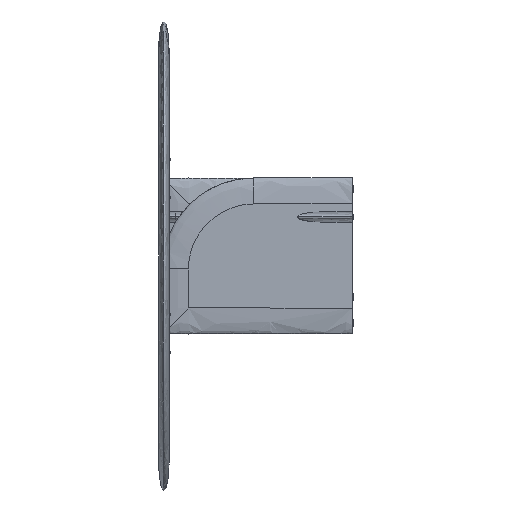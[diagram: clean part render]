
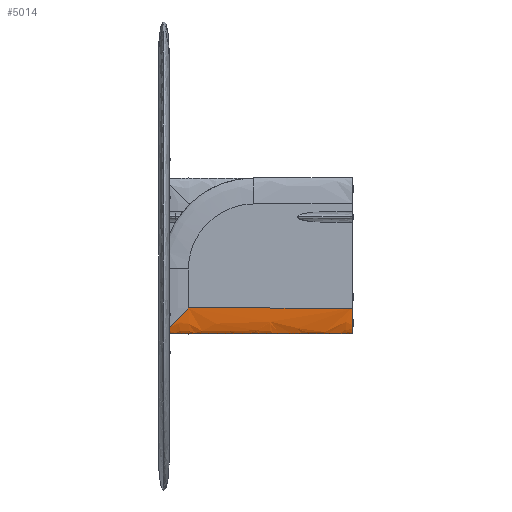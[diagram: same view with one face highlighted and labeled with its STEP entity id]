
A CAD part, left-side view. The second image highlights one B-rep face of the part: STEP entity #5014.
In plain terms, the highlighted free-form (B-spline) face has degree [3, 1] with [4, 2] control points.
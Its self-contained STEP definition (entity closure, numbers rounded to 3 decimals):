
#183 = CARTESIAN_POINT ( 'NONE',  ( 235., 730.6, -350. ) ) ;
#446 = EDGE_CURVE ( 'NONE', #15020, #12614, #1156, .T. ) ;
#465 = EDGE_CURVE ( 'NONE', #15020, #20140, #3178, .T. ) ;
#1156 =( BOUNDED_CURVE ( )  B_SPLINE_CURVE ( 3, ( #19485, #11977, #18241, #16699 ),
 .UNSPECIFIED., .F., .F. ) 
 B_SPLINE_CURVE_WITH_KNOTS ( ( 4, 4 ),
 ( 2.419, 3.864 ),
 .UNSPECIFIED. ) 
 CURVE ( )  GEOMETRIC_REPRESENTATION_ITEM ( )  RATIONAL_B_SPLINE_CURVE ( ( 1., 0.833, 0.833, 1. ) ) 
 REPRESENTATION_ITEM ( '' )  );
#1372 = CARTESIAN_POINT ( 'NONE',  ( 197.677, 680.101, -400.101 ) ) ;
#1470 = CARTESIAN_POINT ( 'NONE',  ( 195.237, 645.671, -365.671 ) ) ;
#1569 = CARTESIAN_POINT ( 'NONE',  ( 201.07, 701.907, -421.907 ) ) ;
#1695 =( BOUNDED_CURVE ( )  B_SPLINE_CURVE ( 3, ( #4519, #19866, #10798, #2968 ),
 .UNSPECIFIED., .F., .F. ) 
 B_SPLINE_CURVE_WITH_KNOTS ( ( 4, 4 ),
 ( 1.571, 4.712 ),
 .UNSPECIFIED. ) 
 CURVE ( )  GEOMETRIC_REPRESENTATION_ITEM ( )  RATIONAL_B_SPLINE_CURVE ( ( 1., 0.333, 0.333, 1. ) ) 
 REPRESENTATION_ITEM ( '' )  );
#2203 = CARTESIAN_POINT ( 'NONE',  ( 228.229, 705., -425. ) ) ;
#2407 = CARTESIAN_POINT ( 'NONE',  ( 235., 636.269, -356.269 ) ) ;
#2522 = EDGE_CURVE ( 'NONE', #20140, #18769, #14318, .T. ) ;
#2707 = CARTESIAN_POINT ( 'NONE',  ( 195.959, 661.335, -381.335 ) ) ;
#2743 = ORIENTED_EDGE ( 'NONE', *, *, #12117, .F. ) ;
#2907 = CARTESIAN_POINT ( 'NONE',  ( 200.463, 698.802, -418.802 ) ) ;
#2968 = CARTESIAN_POINT ( 'NONE',  ( 235., 0., -350. ) ) ;
#3152 = CARTESIAN_POINT ( 'NONE',  ( 201.771, 705., -425. ) ) ;
#3162 = CARTESIAN_POINT ( 'NONE',  ( 235., 0., -350. ) ) ;
#3178 = B_SPLINE_CURVE_WITH_KNOTS ( 'NONE', 3,
 ( #20010, #1569, #2907, #9182, #13926, #13823, #1372, #16800, #20117, #2707, #4659, #1470, #15467, #18442, #6099, #4456, #10535, #18650, #17000, #7852, #20321 ),
 .UNSPECIFIED., .F., .F.,
 ( 4, 2, 2, 2, 2, 2, 2, 2, 1, 2, 4 ),
 ( 0.039, 0.053, 0.066, 0.079, 0.093, 0.119, 0.133, 0.139, 0.143, 0.144, 0.146 ),
 .UNSPECIFIED. ) ;
#3290 = CARTESIAN_POINT ( 'NONE',  ( 195., 0., -350. ) ) ;
#3402 = DIRECTION ( 'NONE',  ( 0., -1., 0. ) ) ;
#3739 = CARTESIAN_POINT ( 'NONE',  ( 235., 0., -350. ) ) ;
#4056 = CARTESIAN_POINT ( 'NONE',  ( 231.949, 683.225, -403.225 ) ) ;
#4456 = CARTESIAN_POINT ( 'NONE',  ( 195.015, 633.919, -353.919 ) ) ;
#4519 = CARTESIAN_POINT ( 'NONE',  ( 195., 0., -350. ) ) ;
#4528 = ORIENTED_EDGE ( 'NONE', *, *, #2522, .F. ) ;
#4659 = CARTESIAN_POINT ( 'NONE',  ( 195.597, 655.071, -375.071 ) ) ;
#4751 = VECTOR ( 'NONE', #17468, 1000. ) ;
#4906 = CARTESIAN_POINT ( 'NONE',  ( 195., 705., -350. ) ) ;
#5014 = ADVANCED_FACE ( 'NONE', ( #17464 ), #6013, .T. ) ;
#5581 = CARTESIAN_POINT ( 'NONE',  ( 235., 630., -350. ) ) ;
#6013 =( BOUNDED_SURFACE ( )  B_SPLINE_SURFACE ( 3, 1, ( 
 ( #4906, #13023 ),
 ( #16011, #14468 ),
 ( #19009, #19299 ),
 ( #8286, #3162 ) ),
 .UNSPECIFIED., .F., .F., .T. ) 
 B_SPLINE_SURFACE_WITH_KNOTS ( ( 4, 4 ),
 ( 2, 2 ),
 ( 0., 1. ),
 ( 0., 1. ),
 .UNSPECIFIED. ) 
 GEOMETRIC_REPRESENTATION_ITEM ( )  RATIONAL_B_SPLINE_SURFACE ( (
 ( 1., 1.),
 ( 0.333, 0.333),
 ( 0.333, 0.333),
 ( 1., 1.) ) ) 
 REPRESENTATION_ITEM ( '' )  SURFACE ( )  );
#6099 = CARTESIAN_POINT ( 'NONE',  ( 195.037, 636.269, -356.269 ) ) ;
#6953 = ORIENTED_EDGE ( 'NONE', *, *, #465, .F. ) ;
#7032 = CARTESIAN_POINT ( 'NONE',  ( 232.323, 680.101, -400.101 ) ) ;
#7113 = EDGE_CURVE ( 'NONE', #12419, #7453, #17369, .T. ) ;
#7139 = CARTESIAN_POINT ( 'NONE',  ( 233.279, 670.722, -390.722 ) ) ;
#7417 = EDGE_LOOP ( 'NONE', ( #6953, #11293, #2743, #11979, #11346, #4528 ) ) ;
#7453 = VERTEX_POINT ( 'NONE', #3739 ) ;
#7852 = CARTESIAN_POINT ( 'NONE',  ( 195., 630.394, -350.394 ) ) ;
#8286 = CARTESIAN_POINT ( 'NONE',  ( 235., 705., -350. ) ) ;
#8669 = CARTESIAN_POINT ( 'NONE',  ( 234.041, 661.335, -381.335 ) ) ;
#9182 = CARTESIAN_POINT ( 'NONE',  ( 199.378, 692.58, -412.58 ) ) ;
#9236 = CARTESIAN_POINT ( 'NONE',  ( 195., 630., -350. ) ) ;
#9830 = CARTESIAN_POINT ( 'NONE',  ( 228.229, 705., -425. ) ) ;
#10329 = CARTESIAN_POINT ( 'NONE',  ( 228.93, 701.907, -421.907 ) ) ;
#10535 = CARTESIAN_POINT ( 'NONE',  ( 195.006, 632.743, -352.743 ) ) ;
#10798 = CARTESIAN_POINT ( 'NONE',  ( 235., 0., -550. ) ) ;
#11271 = VECTOR ( 'NONE', #3402, 1000. ) ;
#11293 = ORIENTED_EDGE ( 'NONE', *, *, #446, .T. ) ;
#11346 = ORIENTED_EDGE ( 'NONE', *, *, #19083, .F. ) ;
#11770 = CARTESIAN_POINT ( 'NONE',  ( 231.098, 689.464, -409.464 ) ) ;
#11875 = CARTESIAN_POINT ( 'NONE',  ( 230.622, 692.58, -412.58 ) ) ;
#11977 = CARTESIAN_POINT ( 'NONE',  ( 209.708, 705., -460. ) ) ;
#11979 = ORIENTED_EDGE ( 'NONE', *, *, #7113, .T. ) ;
#12117 = EDGE_CURVE ( 'NONE', #12419, #12614, #14003, .T. ) ;
#12419 = VERTEX_POINT ( 'NONE', #17247 ) ;
#12614 = VERTEX_POINT ( 'NONE', #9830 ) ;
#13023 = CARTESIAN_POINT ( 'NONE',  ( 195., 0., -350. ) ) ;
#13315 = CARTESIAN_POINT ( 'NONE',  ( 232.989, 673.85, -393.85 ) ) ;
#13823 = CARTESIAN_POINT ( 'NONE',  ( 198.051, 683.225, -403.225 ) ) ;
#13926 = CARTESIAN_POINT ( 'NONE',  ( 198.902, 689.464, -409.464 ) ) ;
#14003 = B_SPLINE_CURVE_WITH_KNOTS ( 'NONE', 3,
 ( #5581, #2407, #14747, #16284, #8669, #7139, #13315, #7032, #4056, #11770, #11875, #18139, #10329, #2203 ),
 .UNSPECIFIED., .F., .F.,
 ( 4, 2, 2, 2, 2, 2, 4 ),
 ( 0., 0.026, 0.053, 0.066, 0.08, 0.093, 0.106 ),
 .UNSPECIFIED. ) ;
#14318 = LINE ( 'NONE', #17504, #11271 ) ;
#14468 = CARTESIAN_POINT ( 'NONE',  ( 195., 0., -550. ) ) ;
#14747 = CARTESIAN_POINT ( 'NONE',  ( 234.883, 642.537, -362.537 ) ) ;
#15020 = VERTEX_POINT ( 'NONE', #3152 ) ;
#15467 = CARTESIAN_POINT ( 'NONE',  ( 195.148, 642.537, -362.537 ) ) ;
#16011 = CARTESIAN_POINT ( 'NONE',  ( 195., 705., -550. ) ) ;
#16284 = CARTESIAN_POINT ( 'NONE',  ( 234.403, 655.071, -375.071 ) ) ;
#16699 = CARTESIAN_POINT ( 'NONE',  ( 228.229, 705., -425. ) ) ;
#16800 = CARTESIAN_POINT ( 'NONE',  ( 197.011, 673.85, -393.85 ) ) ;
#17000 = CARTESIAN_POINT ( 'NONE',  ( 195., 630.784, -350.784 ) ) ;
#17247 = CARTESIAN_POINT ( 'NONE',  ( 235., 630., -350. ) ) ;
#17369 = LINE ( 'NONE', #183, #4751 ) ;
#17464 = FACE_OUTER_BOUND ( 'NONE', #7417, .T. ) ;
#17468 = DIRECTION ( 'NONE',  ( 0., -1., 0. ) ) ;
#17504 = CARTESIAN_POINT ( 'NONE',  ( 195., 730.6, -350. ) ) ;
#18139 = CARTESIAN_POINT ( 'NONE',  ( 229.537, 698.802, -418.802 ) ) ;
#18241 = CARTESIAN_POINT ( 'NONE',  ( 220.292, 705., -460. ) ) ;
#18442 = CARTESIAN_POINT ( 'NONE',  ( 195.059, 637.836, -357.836 ) ) ;
#18650 = CARTESIAN_POINT ( 'NONE',  ( 195.002, 631.568, -351.568 ) ) ;
#18769 = VERTEX_POINT ( 'NONE', #3290 ) ;
#19009 = CARTESIAN_POINT ( 'NONE',  ( 235., 705., -550. ) ) ;
#19083 = EDGE_CURVE ( 'NONE', #18769, #7453, #1695, .T. ) ;
#19299 = CARTESIAN_POINT ( 'NONE',  ( 235., 0., -550. ) ) ;
#19485 = CARTESIAN_POINT ( 'NONE',  ( 201.771, 705., -425. ) ) ;
#19866 = CARTESIAN_POINT ( 'NONE',  ( 195., 0., -550. ) ) ;
#20010 = CARTESIAN_POINT ( 'NONE',  ( 201.771, 705., -425. ) ) ;
#20117 = CARTESIAN_POINT ( 'NONE',  ( 196.721, 670.723, -390.723 ) ) ;
#20140 = VERTEX_POINT ( 'NONE', #9236 ) ;
#20321 = CARTESIAN_POINT ( 'NONE',  ( 195., 630., -350. ) ) ;
